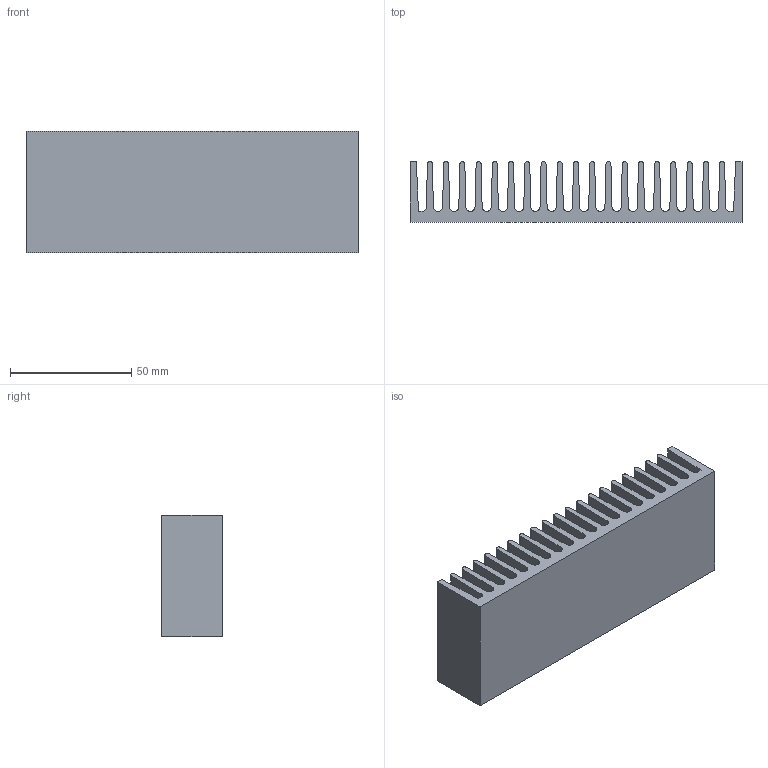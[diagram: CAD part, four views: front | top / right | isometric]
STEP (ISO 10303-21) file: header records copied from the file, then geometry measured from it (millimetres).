
FILE_DESCRIPTION (( 'STEP AP214' ), '1' );
FILE_NAME ('PR287.STEP', '2004-04-30T10:58:26', ( '' ), ( '' ), 'SwSTEP 2.0', 'SolidWorks 2002349', '' );
FILE_SCHEMA (( 'AUTOMOTIVE_DESIGN' ));
Length unit declared in the file: millimetre
Products named in the file (1): PR287
Bounding box: 137 x 25 x 50 mm (x, y, z)
Volume: 86730.4 mm3; surface area: 57401.3 mm2
Topology: 1 solids, 1 shells, 88 faces, 258 edges, 172 vertices
Faces by surface type: plane 49, cylinder 39
Entity records: 2963 total; most frequent: CARTESIAN_POINT 519, ORIENTED_EDGE 516, DIRECTION 514, EDGE_CURVE 258, LINE 180, VECTOR 180, VERTEX_POINT 172, AXIS2_PLACEMENT_3D 167
